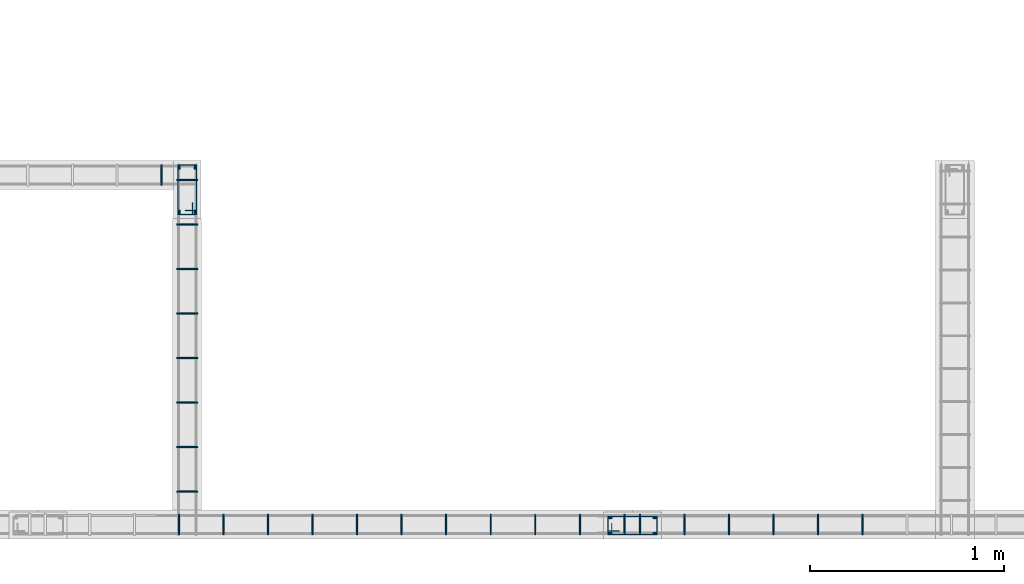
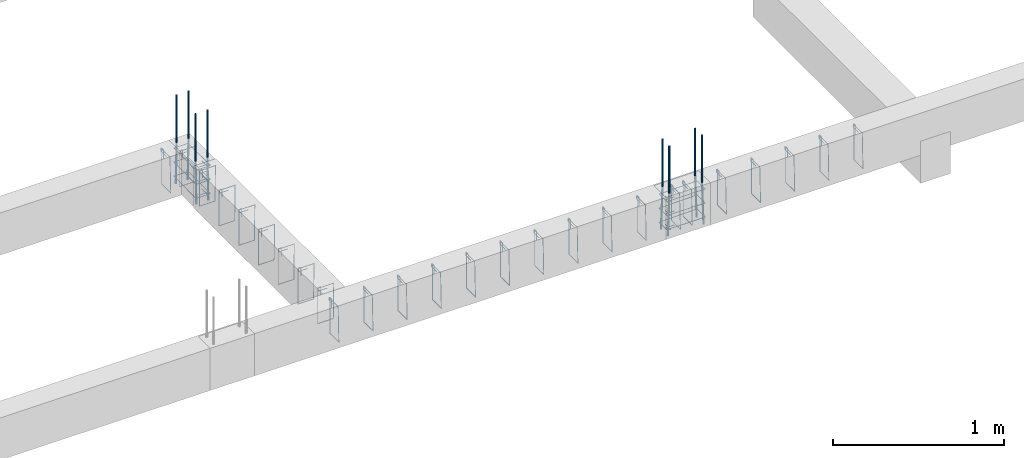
# One storey, part 43 of 150: 40 reinforcing bars.
"""IFC4 building model written with IfcOpenShell, lengths in centimetres."""

import ifcopenshell
import ifcopenshell.guid

model = None  # the IFC model being written
_history = None  # IfcOwnerHistory: only IFC2X3 demands one
_inside = {}  # id of a spatial element -> (the spatial element, [elements in it])
_under = {}  # id of a project, library or spatial element -> (it, [spatial elements below it])
_declared = {}  # id of a project -> (the project, [libraries it declares])
_typed = {}  # id of a type object -> (the type object, [elements of that type])
_made_of = {}  # id of a material, layer set ... -> (it, [elements and type objects made of it])


def new_model(schema):
    """Start an empty IFC model of exactly this schema.

    Asked for "IFC4X3", IfcOpenShell would pick the latest addendum, in which some entities
    have other attributes; the version numbers below select the first issue.
    IFC2X3 requires an IfcOwnerHistory on every rooted entity: one is made here for all.
    """
    global model, _history
    if schema == "IFC4X3":
        model = ifcopenshell.file(schema_version=(4, 3, 0, 0))
    else:
        model = ifcopenshell.file(schema=schema)
    _inside.clear()
    _under.clear()
    _declared.clear()
    _typed.clear()
    _made_of.clear()
    _history = None
    if model.schema == "IFC2X3":
        org = make("IfcOrganization", Name="unknown")
        user = make(
            "IfcPersonAndOrganization",
            ThePerson=make("IfcPerson", FamilyName="unknown"),
            TheOrganization=org,
        )
        app = make(
            "IfcApplication",
            ApplicationDeveloper=org,
            Version="unknown",
            ApplicationFullName="unknown",
            ApplicationIdentifier="unknown",
        )
        _history = make(
            "IfcOwnerHistory",
            OwningUser=user,
            OwningApplication=app,
            ChangeAction="ADDED",
            CreationDate=0,
        )
    return model


def make(cls, **values):
    """One entity of the class cls with the attributes given. An attribute that is None is left unset."""
    return model.create_entity(
        cls, **{name: value for name, value in values.items() if value is not None}
    )


def entity(cls, *values):
    """Any entity or typed value of the class cls, its attributes in the order of the schema. None: left unset."""
    e = model.create_entity(cls)
    for i, value in enumerate(values):
        if value is not None:
            e[i] = value
    return e


def rooted(cls, **values):
    """An entity with a GlobalId (a new one), such as an element, a storey or a relation."""
    return make(cls, GlobalId=ifcopenshell.guid.new(), OwnerHistory=_history, **values)


def si_unit(unit_type, name, prefix=None):
    """IfcSIUnit, for example si_unit("LENGTHUNIT", "METRE", prefix="MILLI")."""
    return make("IfcSIUnit", UnitType=unit_type, Prefix=prefix, Name=name)


def derived_unit(unit_type, elements):
    """IfcDerivedUnit: a product of units, each with its exponent."""
    return make(
        "IfcDerivedUnit",
        Elements=[
            make("IfcDerivedUnitElement", Unit=unit, Exponent=power)
            for unit, power in elements
        ],
        UnitType=unit_type,
    )


def assignment(units):
    """IfcUnitAssignment: the units of a project."""
    return None if units is None else make("IfcUnitAssignment", Units=units)


def point(xyz):
    """IfcCartesianPoint."""
    return None if xyz is None else make("IfcCartesianPoint", Coordinates=xyz)


def direction(xyz):
    """IfcDirection."""
    return None if xyz is None else make("IfcDirection", DirectionRatios=xyz)


def frame(location, z_axis=None, x_axis=None):
    """IfcAxis2Placement3D, a coordinate frame: its origin and axes. An axis left out is left unset."""
    return make(
        "IfcAxis2Placement3D",
        Location=point(location),
        Axis=direction(z_axis),
        RefDirection=direction(x_axis),
    )


def origin_with_axes():
    """The frame at (0, 0, 0) with the z axis (0, 0, 1) and the x axis (1, 0, 0) written out."""
    return frame((0.0, 0.0, 0.0), z_axis=(0.0, 0.0, 1.0), x_axis=(1.0, 0.0, 0.0))


def place(relative_to, where):
    """IfcLocalPlacement: puts the frame where relative to a parent placement (None: the world)."""
    return make(
        "IfcLocalPlacement", PlacementRelTo=relative_to, RelativePlacement=where
    )


def context(
    kind, dimensions, precision=None, world=None, true_north=None, identifier=None
):
    """IfcGeometricRepresentationContext, for example the 3D "Model" context."""
    return make(
        "IfcGeometricRepresentationContext",
        ContextIdentifier=identifier,
        ContextType=kind,
        CoordinateSpaceDimension=dimensions,
        Precision=precision,
        WorldCoordinateSystem=world,
        TrueNorth=true_north,
    )


def project(units=None, contexts=None):
    """IfcProject with its units and contexts."""
    return rooted(
        "IfcProject",
        Name="project",
        RepresentationContexts=contexts,
        UnitsInContext=assignment(units),
    )


def spatial(cls, under=None, at=None, **own):
    """A site, building, storey or space (cls), placed at a placement, below another one or the project."""
    s = rooted(cls, ObjectPlacement=at, **own)
    if under is not None:
        _under.setdefault(under.id(), (under, []))[1].append(s)
    return s


def shape(context_of_items, identifier, shape_type, items):
    """IfcShapeRepresentation: the items that make up one representation, for example the "Body"."""
    return make(
        "IfcShapeRepresentation",
        ContextOfItems=context_of_items,
        RepresentationIdentifier=identifier,
        RepresentationType=shape_type,
        Items=items,
    )


def source(mapping_origin, context_of_items, identifier, shape_type, items):
    """IfcRepresentationMap: a shape defined once, which mapped items show again and again."""
    return make(
        "IfcRepresentationMap",
        MappingOrigin=mapping_origin,
        MappedRepresentation=shape(context_of_items, identifier, shape_type, items),
    )


def transform(
    local_origin,
    x_axis=None,
    y_axis=None,
    z_axis=None,
    scale=None,
    scale2=None,
    scale3=None,
    uniform=True,
):
    """IfcCartesianTransformationOperator3D, or its non-uniform kind. x_axis, y_axis, z_axis: its Axis1, 2, 3."""
    if uniform:
        return make(
            "IfcCartesianTransformationOperator3D",
            Axis1=direction(x_axis),
            Axis2=direction(y_axis),
            LocalOrigin=point(local_origin),
            Scale=scale,
            Axis3=direction(z_axis),
        )
    return make(
        "IfcCartesianTransformationOperator3DnonUniform",
        Axis1=direction(x_axis),
        Axis2=direction(y_axis),
        LocalOrigin=point(local_origin),
        Scale=scale,
        Axis3=direction(z_axis),
        Scale2=scale2,
        Scale3=scale3,
    )


def mapped(mapping_source, mapping_target):
    """IfcMappedItem: shows the shape of a source again, moved by a transform."""
    return make(
        "IfcMappedItem", MappingSource=mapping_source, MappingTarget=mapping_target
    )


def made_of(thing, what):
    """Note that an element or type object is made of a material, layer set ...; save() writes the relation."""
    if what is not None:
        _made_of.setdefault(what.id(), (what, []))[1].append(thing)
    return thing


def element(
    cls,
    number,
    at=None,
    inside=None,
    cuts=None,
    type_object=None,
    material=None,
    context=None,
    identifier="Body",
    shape_type=None,
    held_by="IfcProductDefinitionShape",
    body=None,
    shapes=None,
    **own,
):
    """One element of the class cls, such as IfcWall. Its Tag is "e" and its number.

    at: its placement. inside: the storey or other place that contains it. cuts: it is an
    opening in that element (IfcRelVoidsElement). A single representation is given by context,
    identifier, shape_type and body (its items); several are given by shapes. held_by: the class
    of the entity that holds the representations. save() writes the other relations.
    """
    e = rooted(cls, Tag="e%d" % number, ObjectPlacement=at, **own)
    if body is not None:
        shapes = [shape(context, identifier, shape_type, body)]
    if shapes is not None:
        e.Representation = make(held_by, Representations=shapes)
    if inside is not None:
        _inside.setdefault(inside.id(), (inside, []))[1].append(e)
    if cuts is not None:
        rooted(
            "IfcRelVoidsElement", RelatingBuildingElement=cuts, RelatedOpeningElement=e
        )
    if type_object is not None:
        _typed.setdefault(type_object.id(), (type_object, []))[1].append(e)
    return made_of(e, material)


def aggregate(whole, parts):
    """IfcRelAggregates: a whole, such as a stair, and the parts it consists of."""
    return rooted("IfcRelAggregates", RelatingObject=whole, RelatedObjects=parts)


def save(model, path):
    """Write the relations noted so far, then the file.

    IfcRelAggregates (storeys below a building ...), IfcRelContainedInSpatialStructure (elements
    in a storey), IfcRelDefinesByType, IfcRelAssociatesMaterial and IfcRelDeclares: one each for
    every whole, place, type object, material and project.
    """
    for whole, parts in _under.values():
        aggregate(whole, parts)
    for where, things in _inside.values():
        rooted(
            "IfcRelContainedInSpatialStructure",
            RelatedElements=things,
            RelatingStructure=where,
        )
    for kind, things in _typed.values():
        rooted("IfcRelDefinesByType", RelatedObjects=things, RelatingType=kind)
    for what, things in _made_of.values():
        rooted("IfcRelAssociatesMaterial", RelatedObjects=things, RelatingMaterial=what)
    for by, libraries in _declared.values():
        rooted("IfcRelDeclares", RelatingContext=by, RelatedDefinitions=libraries)
    model.write(path)


model = new_model("IFC4")

# Units and contexts
model_context = context("Model", 3, precision=1e-05, world=origin_with_axes(), identifier="Body")
ifc_project = project(units=[si_unit("LENGTHUNIT", "METRE", prefix="CENTI"), si_unit("VOLUMEUNIT", "CUBIC_METRE"), si_unit("AREAUNIT", "SQUARE_METRE"), si_unit("POWERUNIT", "WATT"), si_unit("LUMINOUSFLUXUNIT", "LUMEN"), si_unit("ELECTRICCURRENTUNIT", "AMPERE"), si_unit("PRESSUREUNIT", "PASCAL", prefix="KILO"), si_unit("MASSUNIT", "GRAM", prefix="KILO"), si_unit("PLANEANGLEUNIT", "RADIAN"), derived_unit("VOLUMETRICFLOWRATEUNIT", [(si_unit("LENGTHUNIT", "METRE"), 3), (si_unit("TIMEUNIT", "SECOND"), -1)])], contexts=[model_context])

# Site, building, storey
site_placement = place(None, frame((-4000.0, 0.0, 0.0), z_axis=(0.0, 0.0, 1.0), x_axis=(1.0, 0.0, 0.0)))
site = spatial("IfcSite", under=ifc_project, at=site_placement, Name="PADRÃO")
building_placement = place(site_placement, frame((0.0, 0.0, -14.0)))
building = spatial("IfcBuilding", under=site, at=building_placement, Name="CRECHE PRÉ-ESCOLA TIPO 2")
placement = place(building_placement, origin_with_axes())
storey_placement = place(placement, frame((0.0, 0.0, 30.0), z_axis=(0.0, 0.0, 1.0), x_axis=(1.0, 0.0, 0.0)))
storey = spatial("IfcBuildingStorey", under=building, at=storey_placement, Name="VIGA BALDRAME", CompositionType="ELEMENT", Elevation=16.0)

# Reinforcing bars
shared_shape_1 = source(origin_with_axes(), model_context, "Body", "AdvancedSweptSolid", [
    entity("IfcSweptDiskSolid", entity("IfcCompositeCurve", [entity("IfcCompositeCurveSegment", "CONTINUOUS", True, entity("IfcPolyline", [entity("IfcCartesianPoint", [4.25, 21.75, 0.0]), entity("IfcCartesianPoint", [4.25, 27.75, 0.0])])), entity("IfcCompositeCurveSegment", "CONTINUOUS", True, entity("IfcPolyline", [entity("IfcCartesianPoint", [4.25, 27.75, 0.0]), entity("IfcCartesianPoint", [2.25, 27.75, 0.0])])), entity("IfcCompositeCurveSegment", "CONTINUOUS", True, entity("IfcPolyline", [entity("IfcCartesianPoint", [2.25, 27.75, 0.0]), entity("IfcCartesianPoint", [2.25, 2.25, 0.0])])), entity("IfcCompositeCurveSegment", "CONTINUOUS", True, entity("IfcPolyline", [entity("IfcCartesianPoint", [2.25, 2.25, 0.0]), entity("IfcCartesianPoint", [11.75, 2.25, 0.0])])), entity("IfcCompositeCurveSegment", "CONTINUOUS", True, entity("IfcPolyline", [entity("IfcCartesianPoint", [11.75, 2.25, 0.0]), entity("IfcCartesianPoint", [11.75, 27.75, -0.5])])), entity("IfcCompositeCurveSegment", "CONTINUOUS", True, entity("IfcPolyline", [entity("IfcCartesianPoint", [11.75, 27.75, -0.5]), entity("IfcCartesianPoint", [2.25, 27.75, -0.5])])), entity("IfcCompositeCurveSegment", "CONTINUOUS", True, entity("IfcPolyline", [entity("IfcCartesianPoint", [2.25, 27.75, -0.5]), entity("IfcCartesianPoint", [2.25, 25.75, -0.5])])), entity("IfcCompositeCurveSegment", "CONTINUOUS", True, entity("IfcPolyline", [entity("IfcCartesianPoint", [2.25, 25.75, -0.5]), entity("IfcCartesianPoint", [8.25, 25.75, -0.5])]))], False), 0.25),
])
for number, where, z_axis, x_axis, name in (
    (1, (2844.49, 197.5, -15.0), (0.0, 0.0, 1.0), (-1.0, 0.0, 0.0), "P153 - Estribo"),
    (2, (2844.49, 197.5, -5.0), (0.0, 0.0, 1.0), (-1.0, 0.0, 0.0), "P153 - Estribo"),
    (3, (2844.49, 197.5, -25.0), (0.0, 0.0, 1.0), (-1.0, 0.0, 0.0), "P153 - Estribo"),
):
    element("IfcReinforcingBar", number, at=place(storey_placement, frame(where, z_axis=z_axis, x_axis=x_axis)), inside=storey, Name=name, BarLength=0.0, CrossSectionArea=1.9634954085e-05, NominalDiameter=0.5, PredefinedType="MAIN", context=model_context, shape_type="MappedRepresentation", body=[
        mapped(shared_shape_1, transform((0.0, 0.0, 0.0), scale=1.0)),
    ])
shared_shape_2 = source(origin_with_axes(), model_context, "Body", "AdvancedSweptSolid", [
    entity("IfcSweptDiskSolid", entity("IfcCompositeCurve", [entity("IfcCompositeCurveSegment", "CONTINUOUS", True, entity("IfcPolyline", [entity("IfcCartesianPoint", [4.25, 21.75, 0.0]), entity("IfcCartesianPoint", [4.25, 27.75, 0.0])])), entity("IfcCompositeCurveSegment", "CONTINUOUS", True, entity("IfcPolyline", [entity("IfcCartesianPoint", [4.25, 27.75, 0.0]), entity("IfcCartesianPoint", [2.25, 27.75, 0.0])])), entity("IfcCompositeCurveSegment", "CONTINUOUS", True, entity("IfcPolyline", [entity("IfcCartesianPoint", [2.25, 27.75, 0.0]), entity("IfcCartesianPoint", [2.25, 2.25, 0.0])])), entity("IfcCompositeCurveSegment", "CONTINUOUS", True, entity("IfcPolyline", [entity("IfcCartesianPoint", [2.25, 2.25, 0.0]), entity("IfcCartesianPoint", [11.75, 2.25, 0.0])])), entity("IfcCompositeCurveSegment", "CONTINUOUS", True, entity("IfcPolyline", [entity("IfcCartesianPoint", [11.75, 2.25, 0.0]), entity("IfcCartesianPoint", [11.75, 27.75, -0.5])])), entity("IfcCompositeCurveSegment", "CONTINUOUS", True, entity("IfcPolyline", [entity("IfcCartesianPoint", [11.75, 27.75, -0.5]), entity("IfcCartesianPoint", [2.25, 27.75, -0.5])])), entity("IfcCompositeCurveSegment", "CONTINUOUS", True, entity("IfcPolyline", [entity("IfcCartesianPoint", [2.25, 27.75, -0.5]), entity("IfcCartesianPoint", [2.25, 25.75, -0.5])])), entity("IfcCompositeCurveSegment", "CONTINUOUS", True, entity("IfcPolyline", [entity("IfcCartesianPoint", [2.25, 25.75, -0.5]), entity("IfcCartesianPoint", [8.25, 25.75, -0.5])]))], False), 0.25),
])
for number, where, z_axis, x_axis, name in (
    (4, (3082.5, 2.0, -5.0), (0.0, 0.0, 1.0), (0.0, 1.0, 0.0), "P165 - Estribo"),
    (5, (3082.5, 2.0, -25.0), (0.0, 0.0, 1.0), (0.0, 1.0, 0.0), "P165 - Estribo"),
    (6, (3082.5, 2.0, -15.0), (0.0, 0.0, 1.0), (0.0, 1.0, 0.0), "P165 - Estribo"),
):
    element("IfcReinforcingBar", number, at=place(storey_placement, frame(where, z_axis=z_axis, x_axis=x_axis)), inside=storey, Name=name, BarLength=0.0, CrossSectionArea=1.9634954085e-05, NominalDiameter=0.5, PredefinedType="MAIN", context=model_context, shape_type="MappedRepresentation", body=[
        mapped(shared_shape_2, transform((0.0, 0.0, 0.0), scale=1.0)),
    ])
shared_shape_3 = source(origin_with_axes(), model_context, "Body", "AdvancedSweptSolid", [
    entity("IfcSweptDiskSolid", entity("IfcCompositeCurve", [entity("IfcCompositeCurveSegment", "CONTINUOUS", True, entity("IfcPolyline", [entity("IfcCartesianPoint", [2.0, -6.0, 0.0]), entity("IfcCartesianPoint", [2.0, 0.0, 0.0])])), entity("IfcCompositeCurveSegment", "CONTINUOUS", True, entity("IfcPolyline", [entity("IfcCartesianPoint", [2.0, 0.0, 0.0]), entity("IfcCartesianPoint", [0.0, 0.0, 0.0])])), entity("IfcCompositeCurveSegment", "CONTINUOUS", True, entity("IfcPolyline", [entity("IfcCartesianPoint", [0.0, 0.0, 0.0]), entity("IfcCartesianPoint", [0.0, -25.5, 0.0])])), entity("IfcCompositeCurveSegment", "CONTINUOUS", True, entity("IfcPolyline", [entity("IfcCartesianPoint", [0.0, -25.5, 0.0]), entity("IfcCartesianPoint", [10.5, -25.5, 0.0])])), entity("IfcCompositeCurveSegment", "CONTINUOUS", True, entity("IfcPolyline", [entity("IfcCartesianPoint", [10.5, -25.5, 0.0]), entity("IfcCartesianPoint", [10.5, 0.0, 0.5])])), entity("IfcCompositeCurveSegment", "CONTINUOUS", True, entity("IfcPolyline", [entity("IfcCartesianPoint", [10.5, 0.0, 0.5]), entity("IfcCartesianPoint", [0.0, 0.0, 0.5])])), entity("IfcCompositeCurveSegment", "CONTINUOUS", True, entity("IfcPolyline", [entity("IfcCartesianPoint", [0.0, 0.0, 0.5]), entity("IfcCartesianPoint", [0.0, -2.0, 0.5])])), entity("IfcCompositeCurveSegment", "CONTINUOUS", True, entity("IfcPolyline", [entity("IfcCartesianPoint", [0.0, -2.0, 0.5]), entity("IfcCartesianPoint", [6.0, -2.0, 0.5])]))], False), 0.25),
])
for number, where, z_axis, x_axis, name in (
    (7, (2833.5, 14.75, -2.25), (-1.0, 0.0, 0.0), (0.0, -1.0, 0.0), "V158 - Estribo"),
    (8, (2856.5, 14.75, -2.25), (-1.0, 0.0, 0.0), (0.0, -1.0, 0.0), "V158 - Estribo"),
    (9, (2879.5, 14.75, -2.25), (-1.0, 0.0, 0.0), (0.0, -1.0, 0.0), "V158 - Estribo"),
    (10, (2902.5, 14.75, -2.25), (-1.0, 0.0, 0.0), (0.0, -1.0, 0.0), "V158 - Estribo"),
    (11, (2925.5, 14.75, -2.25), (-1.0, 0.0, 0.0), (0.0, -1.0, 0.0), "V158 - Estribo"),
    (12, (2948.5, 14.75, -2.25), (-1.0, 0.0, 0.0), (0.0, -1.0, 0.0), "V158 - Estribo"),
    (13, (2971.5, 14.75, -2.25), (-1.0, 0.0, 0.0), (0.0, -1.0, 0.0), "V158 - Estribo"),
    (14, (2994.5, 14.75, -2.25), (-1.0, 0.0, 0.0), (0.0, -1.0, 0.0), "V158 - Estribo"),
    (15, (3017.5, 14.75, -2.25), (-1.0, 0.0, 0.0), (0.0, -1.0, 0.0), "V158 - Estribo"),
    (16, (3040.5, 14.75, -2.25), (-1.0, 0.0, 0.0), (0.0, -1.0, 0.0), "V158 - Estribo"),
    (17, (3063.5, 14.75, -2.25), (-1.0, 0.0, 0.0), (0.0, -1.0, 0.0), "V158 - Estribo"),
):
    element("IfcReinforcingBar", number, at=place(storey_placement, frame(where, z_axis=z_axis, x_axis=x_axis)), inside=storey, Name=name, BarLength=0.0, CrossSectionArea=1.9634954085e-05, NominalDiameter=0.5, PredefinedType="MAIN", context=model_context, shape_type="MappedRepresentation", body=[
        mapped(shared_shape_3, transform((0.0, 0.0, 0.0), scale=1.0)),
    ])
shared_shape_4 = source(origin_with_axes(), model_context, "Body", "AdvancedSweptSolid", [
    entity("IfcSweptDiskSolid", entity("IfcCompositeCurve", [entity("IfcCompositeCurveSegment", "CONTINUOUS", True, entity("IfcPolyline", [entity("IfcCartesianPoint", [2.0, -6.0, 0.0]), entity("IfcCartesianPoint", [2.0, 0.0, 0.0])])), entity("IfcCompositeCurveSegment", "CONTINUOUS", True, entity("IfcPolyline", [entity("IfcCartesianPoint", [2.0, 0.0, 0.0]), entity("IfcCartesianPoint", [0.0, 0.0, 0.0])])), entity("IfcCompositeCurveSegment", "CONTINUOUS", True, entity("IfcPolyline", [entity("IfcCartesianPoint", [0.0, 0.0, 0.0]), entity("IfcCartesianPoint", [0.0, -25.5, 0.0])])), entity("IfcCompositeCurveSegment", "CONTINUOUS", True, entity("IfcPolyline", [entity("IfcCartesianPoint", [0.0, -25.5, 0.0]), entity("IfcCartesianPoint", [10.5, -25.5, 0.0])])), entity("IfcCompositeCurveSegment", "CONTINUOUS", True, entity("IfcPolyline", [entity("IfcCartesianPoint", [10.5, -25.5, 0.0]), entity("IfcCartesianPoint", [10.5, 0.0, 0.5])])), entity("IfcCompositeCurveSegment", "CONTINUOUS", True, entity("IfcPolyline", [entity("IfcCartesianPoint", [10.5, 0.0, 0.5]), entity("IfcCartesianPoint", [0.0, 0.0, 0.5])])), entity("IfcCompositeCurveSegment", "CONTINUOUS", True, entity("IfcPolyline", [entity("IfcCartesianPoint", [0.0, 0.0, 0.5]), entity("IfcCartesianPoint", [0.0, -2.0, 0.5])])), entity("IfcCompositeCurveSegment", "CONTINUOUS", True, entity("IfcPolyline", [entity("IfcCartesianPoint", [0.0, -2.0, 0.5]), entity("IfcCartesianPoint", [6.0, -2.0, 0.5])]))], False), 0.25),
])
for number, where, z_axis, x_axis, name in (
    (18, (3071.5, 14.75, -2.25), (-1.0, 0.0, 0.0), (0.0, -1.0, 0.0), "V158 - Estribo"),
    (19, (3094.5, 14.75, -2.25), (-1.0, 0.0, 0.0), (0.0, -1.0, 0.0), "V158 - Estribo"),
    (20, (3117.5, 14.75, -2.25), (-1.0, 0.0, 0.0), (0.0, -1.0, 0.0), "V158 - Estribo"),
    (21, (3140.5, 14.75, -2.25), (-1.0, 0.0, 0.0), (0.0, -1.0, 0.0), "V158 - Estribo"),
    (22, (3163.5, 14.75, -2.25), (-1.0, 0.0, 0.0), (0.0, -1.0, 0.0), "V158 - Estribo"),
    (23, (3186.5, 14.75, -2.25), (-1.0, 0.0, 0.0), (0.0, -1.0, 0.0), "V158 - Estribo"),
):
    element("IfcReinforcingBar", number, at=place(storey_placement, frame(where, z_axis=z_axis, x_axis=x_axis)), inside=storey, Name=name, BarLength=0.0, CrossSectionArea=1.9634954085e-05, NominalDiameter=0.5, PredefinedType="MAIN", context=model_context, shape_type="MappedRepresentation", body=[
        mapped(shared_shape_4, transform((0.0, 0.0, 0.0), scale=1.0)),
    ])
shared_shape_5 = source(origin_with_axes(), model_context, "Body", "AdvancedSweptSolid", [
    entity("IfcSweptDiskSolid", entity("IfcCompositeCurve", [entity("IfcCompositeCurveSegment", "CONTINUOUS", True, entity("IfcPolyline", [entity("IfcCartesianPoint", [2.0, -6.0, 0.0]), entity("IfcCartesianPoint", [2.0, 0.0, 0.0])])), entity("IfcCompositeCurveSegment", "CONTINUOUS", True, entity("IfcPolyline", [entity("IfcCartesianPoint", [2.0, 0.0, 0.0]), entity("IfcCartesianPoint", [0.0, 0.0, 0.0])])), entity("IfcCompositeCurveSegment", "CONTINUOUS", True, entity("IfcPolyline", [entity("IfcCartesianPoint", [0.0, 0.0, 0.0]), entity("IfcCartesianPoint", [0.0, -25.5, 0.0])])), entity("IfcCompositeCurveSegment", "CONTINUOUS", True, entity("IfcPolyline", [entity("IfcCartesianPoint", [0.0, -25.5, 0.0]), entity("IfcCartesianPoint", [10.5, -25.5, 0.0])])), entity("IfcCompositeCurveSegment", "CONTINUOUS", True, entity("IfcPolyline", [entity("IfcCartesianPoint", [10.5, -25.5, 0.0]), entity("IfcCartesianPoint", [10.5, 0.0, 0.5])])), entity("IfcCompositeCurveSegment", "CONTINUOUS", True, entity("IfcPolyline", [entity("IfcCartesianPoint", [10.5, 0.0, 0.5]), entity("IfcCartesianPoint", [0.0, 0.0, 0.5])])), entity("IfcCompositeCurveSegment", "CONTINUOUS", True, entity("IfcPolyline", [entity("IfcCartesianPoint", [0.0, 0.0, 0.5]), entity("IfcCartesianPoint", [0.0, -2.0, 0.5])])), entity("IfcCompositeCurveSegment", "CONTINUOUS", True, entity("IfcPolyline", [entity("IfcCartesianPoint", [0.0, -2.0, 0.5]), entity("IfcCartesianPoint", [6.0, -2.0, 0.5])]))], False), 0.25),
])
reinforcing_bar_1_placement = place(storey_placement, frame((2824.475, 195.25, -2.25), z_axis=(-1.0, 0.0, 0.0), x_axis=(0.0, -1.0, 0.0)))
element("IfcReinforcingBar", 24, at=reinforcing_bar_1_placement, inside=storey, Name="V157 - Estribo", BarLength=0.0, CrossSectionArea=1.9634954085e-05, NominalDiameter=0.5, PredefinedType="MAIN", context=model_context, shape_type="MappedRepresentation", body=[
    mapped(shared_shape_5, transform((0.0, 0.0, 0.0), scale=1.0)),
])
shared_shape_6 = source(origin_with_axes(), model_context, "Body", "AdvancedSweptSolid", [
    entity("IfcSweptDiskSolid", entity("IfcCompositeCurve", [entity("IfcCompositeCurveSegment", "CONTINUOUS", True, entity("IfcPolyline", [entity("IfcCartesianPoint", [2.0, -6.0, 0.0]), entity("IfcCartesianPoint", [2.0, 0.0, 0.0])])), entity("IfcCompositeCurveSegment", "CONTINUOUS", True, entity("IfcPolyline", [entity("IfcCartesianPoint", [2.0, 0.0, 0.0]), entity("IfcCartesianPoint", [0.0, 0.0, 0.0])])), entity("IfcCompositeCurveSegment", "CONTINUOUS", True, entity("IfcPolyline", [entity("IfcCartesianPoint", [0.0, 0.0, 0.0]), entity("IfcCartesianPoint", [0.0, -25.5, 0.0])])), entity("IfcCompositeCurveSegment", "CONTINUOUS", True, entity("IfcPolyline", [entity("IfcCartesianPoint", [0.0, -25.5, 0.0]), entity("IfcCartesianPoint", [10.5, -25.5, 0.0])])), entity("IfcCompositeCurveSegment", "CONTINUOUS", True, entity("IfcPolyline", [entity("IfcCartesianPoint", [10.5, -25.5, 0.0]), entity("IfcCartesianPoint", [10.5, 0.0, 0.5])])), entity("IfcCompositeCurveSegment", "CONTINUOUS", True, entity("IfcPolyline", [entity("IfcCartesianPoint", [10.5, 0.0, 0.5]), entity("IfcCartesianPoint", [0.0, 0.0, 0.5])])), entity("IfcCompositeCurveSegment", "CONTINUOUS", True, entity("IfcPolyline", [entity("IfcCartesianPoint", [0.0, 0.0, 0.5]), entity("IfcCartesianPoint", [0.0, -2.0, 0.5])])), entity("IfcCompositeCurveSegment", "CONTINUOUS", True, entity("IfcPolyline", [entity("IfcCartesianPoint", [0.0, -2.0, 0.5]), entity("IfcCartesianPoint", [6.0, -2.0, 0.5])]))], False), 0.25),
])
for number, where, z_axis, x_axis, name in (
    (25, (2832.24, 95.75, -2.25), (0.0, -1.0, 0.0), (1.0, 0.0, 0.0), "V206 - Estribo"),
    (26, (2832.24, 118.75, -2.25), (0.0, -1.0, 0.0), (1.0, 0.0, 0.0), "V206 - Estribo"),
    (27, (2832.24, 141.75, -2.25), (0.0, -1.0, 0.0), (1.0, 0.0, 0.0), "V206 - Estribo"),
    (28, (2832.24, 187.75, -2.25), (0.0, -1.0, 0.0), (1.0, 0.0, 0.0), "V206 - Estribo"),
    (29, (2832.24, 164.75, -2.25), (0.0, -1.0, 0.0), (1.0, 0.0, 0.0), "V206 - Estribo"),
    (30, (2832.24, 26.75, -2.25), (0.0, -1.0, 0.0), (1.0, 0.0, 0.0), "V206 - Estribo"),
    (31, (2832.24, 49.75, -2.25), (0.0, -1.0, 0.0), (1.0, 0.0, 0.0), "V206 - Estribo"),
    (32, (2832.24, 72.75, -2.25), (0.0, -1.0, 0.0), (1.0, 0.0, 0.0), "V206 - Estribo"),
):
    element("IfcReinforcingBar", number, at=place(storey_placement, frame(where, z_axis=z_axis, x_axis=x_axis)), inside=storey, Name=name, BarLength=0.0, CrossSectionArea=1.9634954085e-05, NominalDiameter=0.5, PredefinedType="MAIN", context=model_context, shape_type="MappedRepresentation", body=[
        mapped(shared_shape_6, transform((0.0, 0.0, 0.0), scale=1.0)),
    ])
for number, where, z_axis, x_axis, name in (
    (33, (2841.49, 171.000138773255, 33.3573001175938), (0.0, 0.0, 1.0), (1.0, 0.0, 0.0), "P153 - Longitudinal"),
    (34, (2833.49, 171.000138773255, 33.3573001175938), (0.0, 0.0, 1.0), (1.0, 0.0, 0.0), "P153 - Longitudinal"),
):
    element("IfcReinforcingBar", number, at=place(storey_placement, frame(where, z_axis=z_axis, x_axis=x_axis)), inside=storey, Name=name, BarLength=0.0, CrossSectionArea=7.853981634e-05, NominalDiameter=1.0, PredefinedType="MAIN", context=model_context, shape_type="AdvancedSweptSolid", body=[
        entity("IfcSweptDiskSolid", entity("IfcCompositeCurve", [entity("IfcCompositeCurveSegment", "CONTINUOUS", True, entity("IfcPolyline", [entity("IfcCartesianPoint", [0.0, -0.50013877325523, -63.3573001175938]), entity("IfcCartesianPoint", [0.0, 0.49986122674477, -33.3573001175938])])), entity("IfcCompositeCurveSegment", "CONTINUOUS", True, entity("IfcPolyline", [entity("IfcCartesianPoint", [0.0, 0.49986122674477, -33.3573001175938]), entity("IfcCartesianPoint", [0.0, 0.49986122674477, 0.0])]))], False), 0.5),
    ])
for number, where, z_axis, x_axis, name in (
    (35, (2833.49, 193.999861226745, 33.3573001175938), (0.0, 0.0, 1.0), (1.0, 0.0, 0.0), "P153 - Longitudinal"),
    (36, (2841.49, 193.999861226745, 33.3573001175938), (0.0, 0.0, 1.0), (1.0, 0.0, 0.0), "P153 - Longitudinal"),
):
    element("IfcReinforcingBar", number, at=place(storey_placement, frame(where, z_axis=z_axis, x_axis=x_axis)), inside=storey, Name=name, BarLength=0.0, CrossSectionArea=7.853981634e-05, NominalDiameter=1.0, PredefinedType="MAIN", context=model_context, shape_type="AdvancedSweptSolid", body=[
        entity("IfcSweptDiskSolid", entity("IfcCompositeCurve", [entity("IfcCompositeCurveSegment", "CONTINUOUS", True, entity("IfcPolyline", [entity("IfcCartesianPoint", [0.0, 0.50013877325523, -63.3573001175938]), entity("IfcCartesianPoint", [0.0, -0.49986122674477, -33.3573001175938])])), entity("IfcCompositeCurveSegment", "CONTINUOUS", True, entity("IfcPolyline", [entity("IfcCartesianPoint", [0.0, -0.49986122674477, -33.3573001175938]), entity("IfcCartesianPoint", [0.0, -0.49986122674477, 0.0])]))], False), 0.5),
    ])
reinforcing_bar_2_placement = place(storey_placement, frame((3056.00013877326, 5.0, 33.3573001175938), z_axis=(0.0, 0.0, 1.0), x_axis=(1.0, 0.0, 0.0)))
element("IfcReinforcingBar", 37, at=reinforcing_bar_2_placement, inside=storey, Name="P165 - Longitudinal", BarLength=0.0, CrossSectionArea=7.853981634e-05, NominalDiameter=1.0, PredefinedType="MAIN", context=model_context, shape_type="AdvancedSweptSolid", body=[
    entity("IfcSweptDiskSolid", entity("IfcCompositeCurve", [entity("IfcCompositeCurveSegment", "CONTINUOUS", True, entity("IfcPolyline", [entity("IfcCartesianPoint", [-0.500138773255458, 0.0, -63.3573001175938]), entity("IfcCartesianPoint", [0.499861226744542, 0.0, -33.3573001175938])])), entity("IfcCompositeCurveSegment", "CONTINUOUS", True, entity("IfcPolyline", [entity("IfcCartesianPoint", [0.499861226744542, 0.0, -33.3573001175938]), entity("IfcCartesianPoint", [0.499861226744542, 0.0, 0.0])]))], False), 0.5),
])
reinforcing_bar_3_placement = place(storey_placement, frame((3078.99986122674, 5.0, 33.3573001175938), z_axis=(0.0, 0.0, 1.0), x_axis=(1.0, 0.0, 0.0)))
element("IfcReinforcingBar", 38, at=reinforcing_bar_3_placement, inside=storey, Name="P165 - Longitudinal", BarLength=0.0, CrossSectionArea=7.853981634e-05, NominalDiameter=1.0, PredefinedType="MAIN", context=model_context, shape_type="AdvancedSweptSolid", body=[
    entity("IfcSweptDiskSolid", entity("IfcCompositeCurve", [entity("IfcCompositeCurveSegment", "CONTINUOUS", True, entity("IfcPolyline", [entity("IfcCartesianPoint", [0.500138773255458, 0.0, -63.3573001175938]), entity("IfcCartesianPoint", [-0.499861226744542, 0.0, -33.3573001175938])])), entity("IfcCompositeCurveSegment", "CONTINUOUS", True, entity("IfcPolyline", [entity("IfcCartesianPoint", [-0.499861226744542, 0.0, -33.3573001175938]), entity("IfcCartesianPoint", [-0.499861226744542, 0.0, 0.0])]))], False), 0.5),
])
reinforcing_bar_4_placement = place(storey_placement, frame((3056.00013877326, 13.0, 33.3573001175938), z_axis=(0.0, 0.0, 1.0), x_axis=(1.0, 0.0, 0.0)))
element("IfcReinforcingBar", 39, at=reinforcing_bar_4_placement, inside=storey, Name="P165 - Longitudinal", BarLength=0.0, CrossSectionArea=7.853981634e-05, NominalDiameter=1.0, PredefinedType="MAIN", context=model_context, shape_type="AdvancedSweptSolid", body=[
    entity("IfcSweptDiskSolid", entity("IfcCompositeCurve", [entity("IfcCompositeCurveSegment", "CONTINUOUS", True, entity("IfcPolyline", [entity("IfcCartesianPoint", [-0.500138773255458, 0.0, -63.3573001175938]), entity("IfcCartesianPoint", [0.499861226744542, 0.0, -33.3573001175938])])), entity("IfcCompositeCurveSegment", "CONTINUOUS", True, entity("IfcPolyline", [entity("IfcCartesianPoint", [0.499861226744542, 0.0, -33.3573001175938]), entity("IfcCartesianPoint", [0.499861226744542, 0.0, 0.0])]))], False), 0.5),
])
reinforcing_bar_5_placement = place(storey_placement, frame((3078.99986122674, 13.0, 33.3573001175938), z_axis=(0.0, 0.0, 1.0), x_axis=(1.0, 0.0, 0.0)))
element("IfcReinforcingBar", 40, at=reinforcing_bar_5_placement, inside=storey, Name="P165 - Longitudinal", BarLength=0.0, CrossSectionArea=7.853981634e-05, NominalDiameter=1.0, PredefinedType="MAIN", context=model_context, shape_type="AdvancedSweptSolid", body=[
    entity("IfcSweptDiskSolid", entity("IfcCompositeCurve", [entity("IfcCompositeCurveSegment", "CONTINUOUS", True, entity("IfcPolyline", [entity("IfcCartesianPoint", [0.500138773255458, 0.0, -63.3573001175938]), entity("IfcCartesianPoint", [-0.499861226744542, 0.0, -33.3573001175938])])), entity("IfcCompositeCurveSegment", "CONTINUOUS", True, entity("IfcPolyline", [entity("IfcCartesianPoint", [-0.499861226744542, 0.0, -33.3573001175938]), entity("IfcCartesianPoint", [-0.499861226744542, 0.0, 0.0])]))], False), 0.5),
])

save(model, "model.ifc")
